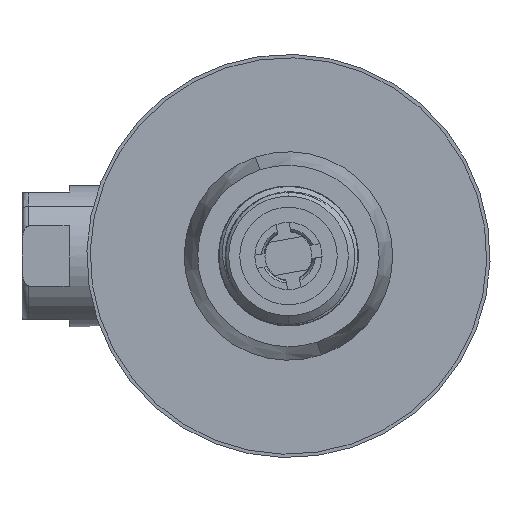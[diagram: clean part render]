
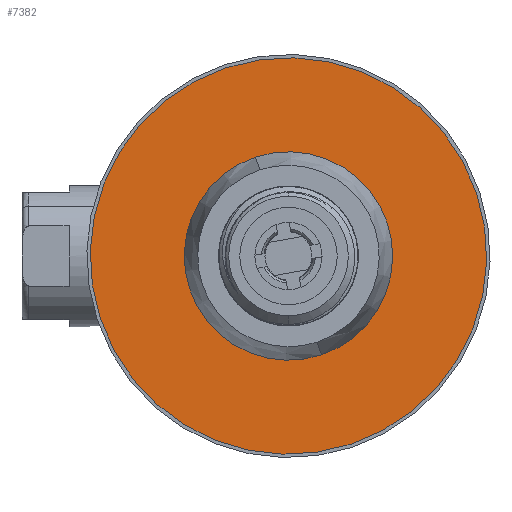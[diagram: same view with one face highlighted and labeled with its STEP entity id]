
A CAD part, left-side view. The second image highlights one B-rep face of the part: STEP entity #7382.
In plain terms, the highlighted planar face has unit normal (-1, 0, 0) as drawn and (0, -1, 0) by its records, which use the part's own axes.
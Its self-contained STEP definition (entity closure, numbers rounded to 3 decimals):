
#428 = CARTESIAN_POINT ( 'NONE',  ( 0., 11.5, 15.51 ) ) ;
#923 = DIRECTION ( 'NONE',  ( 0., 0., -1. ) ) ;
#1199 = EDGE_LOOP ( 'NONE', ( #6188, #28503 ) ) ;
#2063 = CARTESIAN_POINT ( 'NONE',  ( 0., 11.5, -15.51 ) ) ;
#2289 = CARTESIAN_POINT ( 'NONE',  ( 0., 11.5, -29.5 ) ) ;
#3087 = FACE_BOUND ( 'NONE', #1199, .T. ) ;
#4250 = VERTEX_POINT ( 'NONE', #2289 ) ;
#5622 = VERTEX_POINT ( 'NONE', #428 ) ;
#6188 = ORIENTED_EDGE ( 'NONE', *, *, #22003, .F. ) ;
#6764 = EDGE_CURVE ( 'NONE', #18625, #5622, #25244, .T. ) ;
#6925 = DIRECTION ( 'NONE',  ( 0., 0., -1. ) ) ;
#7382 = ADVANCED_FACE ( 'NONE', ( #3087, #27960 ), #12153, .T. ) ;
#7685 = DIRECTION ( 'NONE',  ( 0., 0., -1. ) ) ;
#8063 = DIRECTION ( 'NONE',  ( 0., 0., -1. ) ) ;
#8098 = AXIS2_PLACEMENT_3D ( 'NONE', #12241, #28634, #8063 ) ;
#8180 = VERTEX_POINT ( 'NONE', #22142 ) ;
#9069 = CIRCLE ( 'NONE', #8098, 15.51 ) ;
#9598 = EDGE_CURVE ( 'NONE', #8180, #4250, #17497, .T. ) ;
#10480 = CARTESIAN_POINT ( 'NONE',  ( 0., 11.5, 0. ) ) ;
#10591 = ORIENTED_EDGE ( 'NONE', *, *, #27085, .T. ) ;
#12153 = PLANE ( 'NONE',  #12837 ) ;
#12241 = CARTESIAN_POINT ( 'NONE',  ( 0., 11.5, 0. ) ) ;
#12837 = AXIS2_PLACEMENT_3D ( 'NONE', #21254, #13974, #7685 ) ;
#13974 = DIRECTION ( 'NONE',  ( 0., -1., 0. ) ) ;
#15058 = AXIS2_PLACEMENT_3D ( 'NONE', #10480, #19577, #23768 ) ;
#16087 = AXIS2_PLACEMENT_3D ( 'NONE', #23866, #16856, #923 ) ;
#16856 = DIRECTION ( 'NONE',  ( 0., -1., 0. ) ) ;
#17497 = CIRCLE ( 'NONE', #16087, 29.5 ) ;
#18625 = VERTEX_POINT ( 'NONE', #2063 ) ;
#18737 = EDGE_LOOP ( 'NONE', ( #10591, #21807 ) ) ;
#19312 = CIRCLE ( 'NONE', #15058, 29.5 ) ;
#19577 = DIRECTION ( 'NONE',  ( 0., -1., 0. ) ) ;
#20776 = CARTESIAN_POINT ( 'NONE',  ( 0., 11.5, 0. ) ) ;
#21254 = CARTESIAN_POINT ( 'NONE',  ( 15.51, 11.5, 0. ) ) ;
#21807 = ORIENTED_EDGE ( 'NONE', *, *, #9598, .T. ) ;
#22003 = EDGE_CURVE ( 'NONE', #5622, #18625, #9069, .T. ) ;
#22142 = CARTESIAN_POINT ( 'NONE',  ( 0., 11.5, 29.5 ) ) ;
#23768 = DIRECTION ( 'NONE',  ( 0., 0., -1. ) ) ;
#23866 = CARTESIAN_POINT ( 'NONE',  ( 0., 11.5, 0. ) ) ;
#25244 = CIRCLE ( 'NONE', #29042, 15.51 ) ;
#25680 = DIRECTION ( 'NONE',  ( 0., -1., 0. ) ) ;
#27085 = EDGE_CURVE ( 'NONE', #4250, #8180, #19312, .T. ) ;
#27960 = FACE_OUTER_BOUND ( 'NONE', #18737, .T. ) ;
#28503 = ORIENTED_EDGE ( 'NONE', *, *, #6764, .F. ) ;
#28634 = DIRECTION ( 'NONE',  ( 0., -1., 0. ) ) ;
#29042 = AXIS2_PLACEMENT_3D ( 'NONE', #20776, #25680, #6925 ) ;
